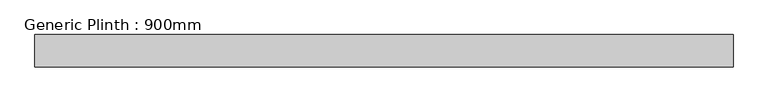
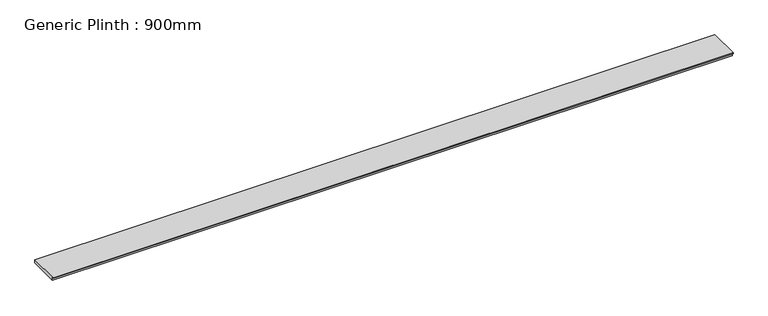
"""IFC4 building model written with IfcOpenShell, lengths in millimetres: furniture geometry, Generic Plinth : 900mm."""

from ifc_helpers import new_model, si_unit, frame, origin, place, context, project, spatial, polyline, outline, extrude, source, transform, mapped, element, save


def generic_plinth_900mm_a81356e5(model_context):
    return source(origin(), model_context, "Body", "SweptSolid", [
        extrude(outline(polyline([(-900.0, 81.0), (-900.0, 100.0), (0.0, 100.0), (0.0, 0.0), (-865.0, 0.0), (-865.0, 81.0), (-900.0, 81.0)])), frame((-9731.2622951, 0.0, 0.0), z_axis=(1.0, 0.0, 0.0), x_axis=(0.0, 1.0, 0.0)), (0.0, 0.0, 1.0), 19500.0),
    ])


if __name__ == "__main__":
    model = new_model("IFC4")
    model_context = context("Model", 3, world=origin())
    ifc_project = project(units=[si_unit("LENGTHUNIT", "METRE", prefix="MILLI")], contexts=[model_context])
    site = spatial("IfcSite", under=ifc_project)
    building = spatial("IfcBuilding", under=site)
    placement = place(None, origin())
    generic_plinth_900mm_shape = generic_plinth_900mm_a81356e5(model_context)
    element("IfcFurniture", 1, ObjectType="Generic Plinth : 900mm", at=placement, inside=building, context=model_context, shape_type="MappedRepresentation", body=[
        mapped(generic_plinth_900mm_shape, transform((0.0, 0.0, 0.0), x_axis=(1.0, 0.0, 0.0), y_axis=(0.0, 1.0, 0.0), z_axis=(0.0, 0.0, 1.0))),
    ])
    save(model, "model.ifc")
